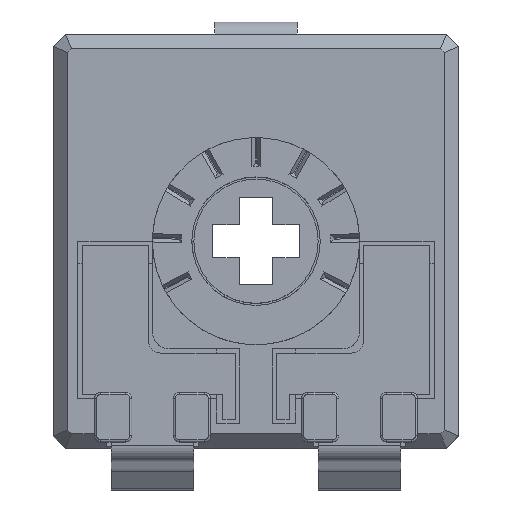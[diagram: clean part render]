
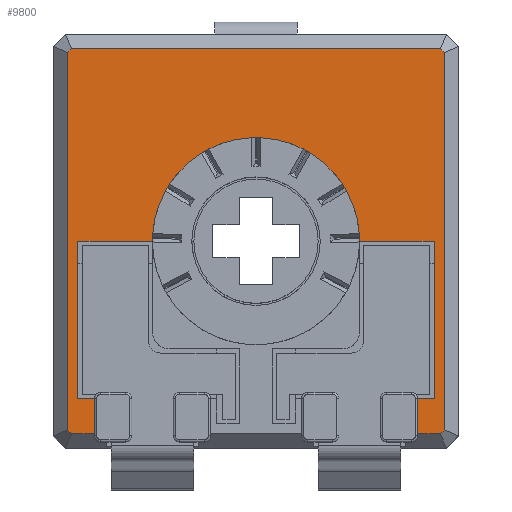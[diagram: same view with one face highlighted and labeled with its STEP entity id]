
A CAD part, top view. The second image highlights one B-rep face of the part: STEP entity #9800.
In plain terms, the highlighted planar face has unit normal (0, 0, 1).
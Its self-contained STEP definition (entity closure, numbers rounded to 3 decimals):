
#306=CIRCLE('',#10466,2.5);
#571=FACE_OUTER_BOUND('',#1081,.T.);
#1081=EDGE_LOOP('',(#6967,#6968,#6969,#6970,#6971,#6972,#6973,#6974,#6975,
#6976,#6977,#6978,#6979,#6980,#6981,#6982,#6983,#6984));
#1688=LINE('',#14306,#2851);
#1741=LINE('',#14522,#2904);
#1796=LINE('',#14642,#2959);
#1818=LINE('',#14686,#2981);
#1819=LINE('',#14688,#2982);
#1820=LINE('',#14690,#2983);
#1821=LINE('',#14692,#2984);
#1822=LINE('',#14694,#2985);
#1823=LINE('',#14696,#2986);
#1824=LINE('',#14698,#2987);
#1825=LINE('',#14700,#2988);
#1826=LINE('',#14701,#2989);
#1827=LINE('',#14703,#2990);
#1828=LINE('',#14705,#2991);
#1829=LINE('',#14707,#2992);
#1830=LINE('',#14711,#2993);
#1831=LINE('',#14712,#2994);
#2851=VECTOR('',#11498,10.);
#2904=VECTOR('',#11745,10.);
#2959=VECTOR('',#11860,10.);
#2981=VECTOR('',#11896,10.);
#2982=VECTOR('',#11897,10.);
#2983=VECTOR('',#11898,10.);
#2984=VECTOR('',#11899,10.);
#2985=VECTOR('',#11900,10.);
#2986=VECTOR('',#11901,10.);
#2987=VECTOR('',#11902,10.);
#2988=VECTOR('',#11903,10.);
#2989=VECTOR('',#11904,10.);
#2990=VECTOR('',#11905,10.);
#2991=VECTOR('',#11906,10.);
#2992=VECTOR('',#11907,10.);
#2993=VECTOR('',#11910,10.);
#2994=VECTOR('',#11911,10.);
#4017=VERTEX_POINT('',#14303);
#4018=VERTEX_POINT('',#14305);
#4083=VERTEX_POINT('',#14519);
#4084=VERTEX_POINT('',#14521);
#4119=VERTEX_POINT('',#14641);
#4134=VERTEX_POINT('',#14685);
#4135=VERTEX_POINT('',#14687);
#4136=VERTEX_POINT('',#14689);
#4137=VERTEX_POINT('',#14691);
#4138=VERTEX_POINT('',#14693);
#4139=VERTEX_POINT('',#14695);
#4140=VERTEX_POINT('',#14697);
#4141=VERTEX_POINT('',#14699);
#4142=VERTEX_POINT('',#14702);
#4143=VERTEX_POINT('',#14704);
#4144=VERTEX_POINT('',#14706);
#4145=VERTEX_POINT('',#14708);
#4146=VERTEX_POINT('',#14710);
#5012=EDGE_CURVE('',#4018,#4017,#1688,.T.);
#5120=EDGE_CURVE('',#4084,#4083,#1741,.T.);
#5182=EDGE_CURVE('',#4119,#4018,#1796,.T.);
#5205=EDGE_CURVE('',#4134,#4017,#1818,.T.);
#5206=EDGE_CURVE('',#4135,#4134,#1819,.T.);
#5207=EDGE_CURVE('',#4136,#4135,#1820,.T.);
#5208=EDGE_CURVE('',#4137,#4136,#1821,.T.);
#5209=EDGE_CURVE('',#4138,#4137,#1822,.T.);
#5210=EDGE_CURVE('',#4139,#4138,#1823,.T.);
#5211=EDGE_CURVE('',#4140,#4139,#1824,.T.);
#5212=EDGE_CURVE('',#4141,#4140,#1825,.T.);
#5213=EDGE_CURVE('',#4084,#4141,#1826,.T.);
#5214=EDGE_CURVE('',#4083,#4142,#1827,.T.);
#5215=EDGE_CURVE('',#4142,#4143,#1828,.T.);
#5216=EDGE_CURVE('',#4143,#4144,#1829,.T.);
#5217=EDGE_CURVE('',#4144,#4145,#306,.T.);
#5218=EDGE_CURVE('',#4145,#4146,#1830,.T.);
#5219=EDGE_CURVE('',#4146,#4119,#1831,.T.);
#6967=ORIENTED_EDGE('',*,*,#5012,.T.);
#6968=ORIENTED_EDGE('',*,*,#5205,.F.);
#6969=ORIENTED_EDGE('',*,*,#5206,.F.);
#6970=ORIENTED_EDGE('',*,*,#5207,.F.);
#6971=ORIENTED_EDGE('',*,*,#5208,.F.);
#6972=ORIENTED_EDGE('',*,*,#5209,.F.);
#6973=ORIENTED_EDGE('',*,*,#5210,.F.);
#6974=ORIENTED_EDGE('',*,*,#5211,.F.);
#6975=ORIENTED_EDGE('',*,*,#5212,.F.);
#6976=ORIENTED_EDGE('',*,*,#5213,.F.);
#6977=ORIENTED_EDGE('',*,*,#5120,.T.);
#6978=ORIENTED_EDGE('',*,*,#5214,.T.);
#6979=ORIENTED_EDGE('',*,*,#5215,.T.);
#6980=ORIENTED_EDGE('',*,*,#5216,.T.);
#6981=ORIENTED_EDGE('',*,*,#5217,.T.);
#6982=ORIENTED_EDGE('',*,*,#5218,.T.);
#6983=ORIENTED_EDGE('',*,*,#5219,.T.);
#6984=ORIENTED_EDGE('',*,*,#5182,.T.);
#9131=PLANE('',#10465);
#9800=ADVANCED_FACE('',(#571),#9131,.T.);
#10465=AXIS2_PLACEMENT_3D('',#14684,#11894,#11895);
#10466=AXIS2_PLACEMENT_3D('',#14709,#11908,#11909);
#11498=DIRECTION('',(0.,-1.,0.));
#11745=DIRECTION('',(0.,1.,0.));
#11860=DIRECTION('',(-1.,0.,0.));
#11894=DIRECTION('center_axis',(0.,0.,1.));
#11895=DIRECTION('ref_axis',(1.,0.,0.));
#11896=DIRECTION('',(-1.,0.,0.));
#11897=DIRECTION('',(-0.707,-0.707,0.));
#11898=DIRECTION('',(0.,-1.,0.));
#11899=DIRECTION('',(0.707,-0.707,0.));
#11900=DIRECTION('',(1.,0.,0.));
#11901=DIRECTION('',(0.707,0.707,0.));
#11902=DIRECTION('',(0.,1.,0.));
#11903=DIRECTION('',(-0.707,0.707,0.));
#11904=DIRECTION('',(-1.,0.,0.));
#11905=DIRECTION('',(-1.,0.,0.));
#11906=DIRECTION('',(0.,1.,0.));
#11907=DIRECTION('',(1.,0.,0.));
#11908=DIRECTION('center_axis',(0.,0.,-1.));
#11909=DIRECTION('ref_axis',(-1.,0.,0.));
#11910=DIRECTION('',(1.,0.,0.));
#11911=DIRECTION('',(0.,-1.,0.));
#14303=CARTESIAN_POINT('',(-22.548,-17.64,0.));
#14305=CARTESIAN_POINT('',(-22.548,-16.79,0.));
#14306=CARTESIAN_POINT('',(-22.548,-15.415,0.));
#14519=CARTESIAN_POINT('',(-30.348,-16.79,0.));
#14521=CARTESIAN_POINT('',(-30.348,-17.64,0.));
#14522=CARTESIAN_POINT('',(-30.348,-14.815,0.));
#14641=CARTESIAN_POINT('',(-22.148,-16.79,0.));
#14642=CARTESIAN_POINT('',(-24.648,-16.79,0.));
#14684=CARTESIAN_POINT('Origin',(-26.448,-12.99,0.));
#14685=CARTESIAN_POINT('',(-21.993,-17.64,0.));
#14686=CARTESIAN_POINT('',(-28.748,-17.64,0.));
#14687=CARTESIAN_POINT('',(-21.898,-17.545,0.));
#14688=CARTESIAN_POINT('',(-21.995,-17.643,0.));
#14689=CARTESIAN_POINT('',(-21.898,-8.435,0.));
#14690=CARTESIAN_POINT('',(-21.898,-15.34,0.));
#14691=CARTESIAN_POINT('',(-21.993,-8.34,0.));
#14692=CARTESIAN_POINT('',(-21.845,-8.488,0.));
#14693=CARTESIAN_POINT('',(-30.903,-8.34,0.));
#14694=CARTESIAN_POINT('',(-24.148,-8.34,0.));
#14695=CARTESIAN_POINT('',(-30.998,-8.435,0.));
#14696=CARTESIAN_POINT('',(-30.9,-8.338,0.));
#14697=CARTESIAN_POINT('',(-30.998,-17.545,0.));
#14698=CARTESIAN_POINT('',(-30.998,-10.64,0.));
#14699=CARTESIAN_POINT('',(-30.903,-17.64,0.));
#14700=CARTESIAN_POINT('',(-31.05,-17.493,0.));
#14701=CARTESIAN_POINT('',(-28.748,-17.64,0.));
#14702=CARTESIAN_POINT('',(-30.748,-16.79,0.));
#14703=CARTESIAN_POINT('',(-28.598,-16.79,0.));
#14704=CARTESIAN_POINT('',(-30.748,-12.99,0.));
#14705=CARTESIAN_POINT('',(-30.748,-12.99,0.));
#14706=CARTESIAN_POINT('',(-28.948,-12.99,0.));
#14707=CARTESIAN_POINT('',(-27.698,-12.99,0.));
#14708=CARTESIAN_POINT('',(-23.948,-12.99,0.));
#14709=CARTESIAN_POINT('Origin',(-26.448,-12.99,0.));
#14710=CARTESIAN_POINT('',(-22.148,-12.99,0.));
#14711=CARTESIAN_POINT('',(-24.298,-12.99,0.));
#14712=CARTESIAN_POINT('',(-22.148,-14.89,0.));
